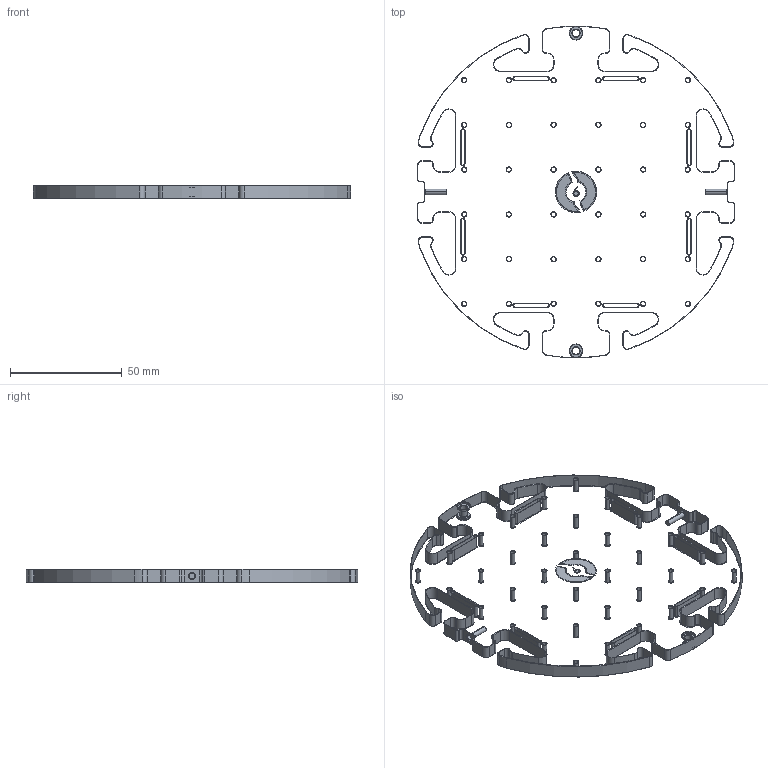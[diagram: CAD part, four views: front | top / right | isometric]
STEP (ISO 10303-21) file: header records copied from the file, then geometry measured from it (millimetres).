
FILE_DESCRIPTION (( 'STEP AP214' ), '1' );
FILE_NAME ('BR-103131-600_Rev_4.step', '2024-12-10T18:59:35', ( '' ), ( '' ), 'SwSTEP 2.0', 'SolidWorks 2024', '' );
FILE_SCHEMA (( 'AUTOMOTIVE_DESIGN' ));
Length unit declared in the file: millimetre
Products named in the file (1): BR-103131-600_Rev_4
Bounding box: 141.78 x 148.23 x 6 mm (x, y, z)
Volume: 86579.8 mm3; surface area: 37952.4 mm2
Topology: 1 solids, 1 shells, 860 faces, 2020 edges, 1168 vertices
Faces by surface type: cone 412, plane 225, cylinder 206, bspline 17
Entity records: 25921 total; most frequent: CARTESIAN_POINT 5714, DIRECTION 4495, ORIENTED_EDGE 4040, EDGE_CURVE 2020, AXIS2_PLACEMENT_3D 1694, VERTEX_POINT 1168, LINE 1107, VECTOR 1107
